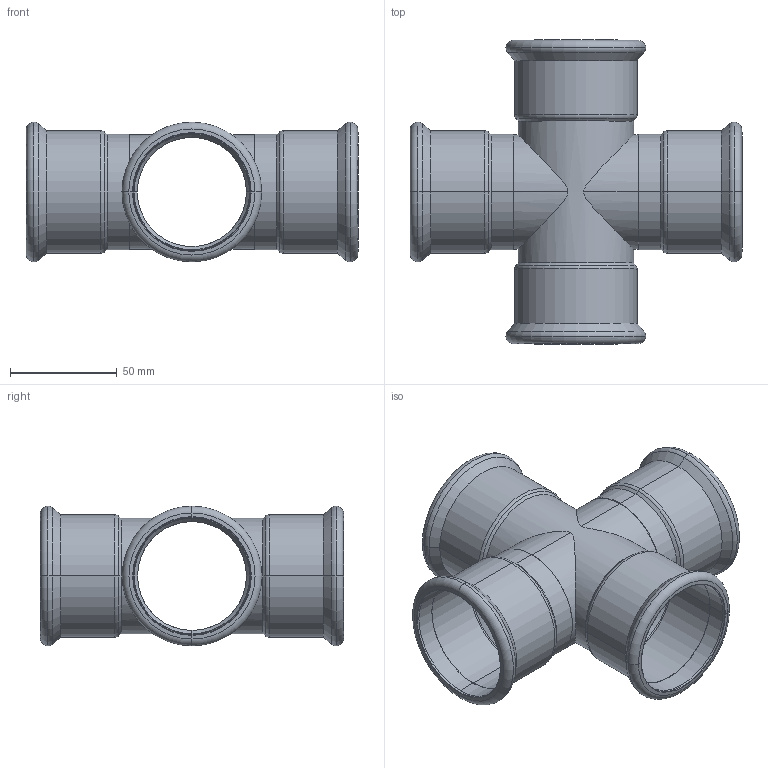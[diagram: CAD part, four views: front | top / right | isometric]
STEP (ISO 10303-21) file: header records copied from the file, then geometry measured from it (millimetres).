
FILE_DESCRIPTION(('CoCreate Modeling STEP Export'),'2;1');
FILE_NAME('C1447 54x54x54x54.stp','2014-11-12T17:25:48',(''),(''),'CoCreate Modeling STEP processor for AP214 (Solid Model)','CoCreate Modeling 17.00A 17-Jun-2010 (C) Parametric Technology GmbH','');
FILE_SCHEMA(('AUTOMOTIVE_DESIGN { 1 0 10303 214 1 1 1 1 }'));
Length unit declared in the file: millimetre
Products named in the file (1): C1447_54x54x54x54
Bounding box: 155.15 x 142 x 65.3 mm (x, y, z)
Volume: 76419.5 mm3; surface area: 84101.4 mm2
Topology: 1 solids, 1 shells, 132 faces, 287 edges, 151 vertices
Faces by surface type: cone 52, torus 48, cylinder 32
Entity records: 6636 total; most frequent: CARTESIAN_POINT 4223, ORIENTED_EDGE 574, DIRECTION 432, EDGE_CURVE 287, AXIS2_PLACEMENT_3D 174, VERTEX_POINT 151, EDGE_LOOP 132, FACE_OUTER_BOUND 132
